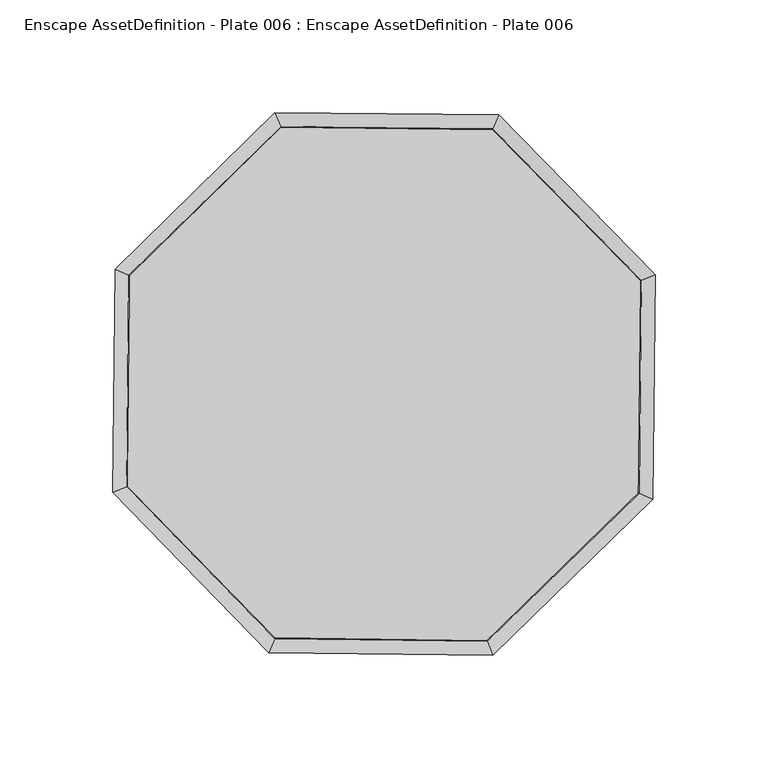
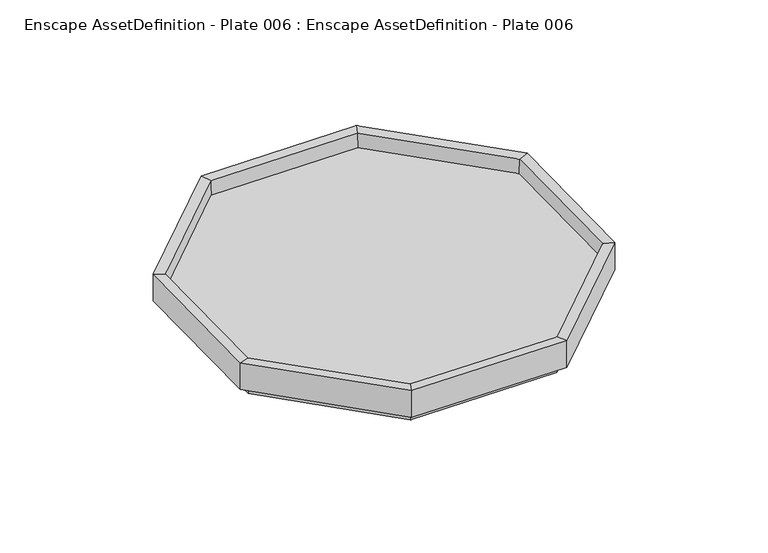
"""IFC4 building model written with IfcOpenShell, lengths in millimetres: geographic element geometry, Enscape AssetDefinition - Plate 006 : Enscape AssetDefinition - Plate 006."""

from ifc_helpers import new_model, si_unit, origin, place, context, project, spatial, triangles, source, transform, mapped, element, save


def enscape_assetdefinition_plate_006_enscape_assetdefinition_0bcb7aa0(model_context):
    return source(origin(), model_context, "Body", "Tessellation", [
        triangles([(-113.2349941, 48.2369993, 6.4420004), (-120.6630019, -48.2270027, 6.5360001), (-119.5479991, 50.9280006, 6.5360001), (-45.9609982, 114.1759978, 6.4420004), (-45.9129997, 114.0650034, 0.0), (48.2350009, 113.2320056, 6.4420004), (48.1909992, 113.1210022, 0.0), (113.0040035, -48.4660006, 0.0), (114.0650034, 45.9129997, 0.0), (120.5440048, 48.5210027, 6.5369999), (114.1739993, 45.9569968, 6.4420004), (113.111001, -48.5139992, 6.4420004), (45.6350006, -114.1770061, 0.0), (-113.1220014, 48.1909992, 0.0), (119.4220075, -51.2199977, 6.5369999), (45.6760001, -114.2889996, 6.4420004), (48.2259989, -120.6630019, 6.5369999), (119.4750021, -51.2420031, 24.9839992), (-48.4660006, -113.0040035, 0.0), (-114.1770061, -45.6350006, 0.0), (-48.5170013, -113.1149978, 6.4420004), (-114.290998, -45.6800015, 6.4420004), (48.2479998, -120.7149972, 24.9839992), (-51.2199977, -119.4229976, 6.5360001), (-51.2420031, -119.4750021, 24.9839992), (-120.7149972, -48.2479998, 24.9839992), (113.284001, -48.5870007, 24.6020003), (45.7479979, -114.4600011, 24.6020003), (-48.5870007, -113.284001, 24.6020003), (-113.4029981, 48.3100009, 24.6020003), (-114.4600011, -45.7479979, 24.6020003), (-114.0900019, -45.600001, 14.9890004), (-48.4300017, -112.9179986, 14.9890004), (45.600001, -114.0900019, 14.9890004), (112.9179986, -48.4300017, 14.9890004), (48.1540011, 113.0359965, 14.9890004), (113.9789985, 45.878, 14.9890004), (-46.0270007, 114.3479985, 24.6020003), (48.3100009, 113.4019989, 24.6020003), (114.3479985, 46.0270007, 24.6020003), (120.5969994, 48.5419998, 24.9839992), (50.9269969, 119.5479991, 6.5369999), (-48.5219974, 120.5440048, 6.5369999), (50.9499969, 119.5989952, 24.9839992), (-119.5999944, 50.9499969, 24.9839992), (-48.5419998, 120.5969994, 24.9839992), (-45.878, 113.9789985, 14.9890004), (-113.0359965, 48.1540011, 14.9890004)], [[47, 48, 32], [30, 48, 47], [45, 46, 43], [45, 38, 46], [45, 30, 38], [30, 47, 38], [38, 44, 46], [43, 44, 42], [43, 46, 44], [42, 44, 41], [40, 41, 44], [38, 39, 44], [40, 44, 39], [38, 36, 39], [38, 47, 36], [27, 40, 37], [39, 37, 40], [39, 36, 37], [37, 36, 47], [27, 37, 35], [47, 35, 37], [47, 34, 35], [47, 33, 34], [47, 32, 33], [31, 48, 30], [31, 32, 48], [31, 33, 32], [30, 26, 31], [30, 45, 26], [26, 29, 31], [29, 34, 33], [31, 29, 33], [28, 35, 34], [28, 27, 35], [29, 28, 34], [26, 25, 29], [25, 28, 29], [2, 25, 26], [1, 20, 22], [22, 24, 2], [2, 24, 25], [25, 23, 28], [23, 27, 28], [24, 23, 25], [18, 40, 27], [18, 41, 40], [23, 18, 27], [17, 18, 23], [24, 17, 23], [20, 21, 22], [22, 21, 24], [21, 17, 24], [20, 19, 21], [19, 16, 21], [21, 16, 17], [15, 41, 18], [16, 15, 17], [17, 15, 18], [15, 10, 41], [42, 41, 10], [12, 10, 15], [16, 12, 15], [19, 13, 16], [13, 12, 16], [19, 20, 14], [14, 13, 19], [1, 14, 20], [14, 8, 13], [13, 8, 12], [8, 11, 12], [12, 11, 10], [42, 10, 11], [14, 9, 8], [8, 9, 11], [14, 7, 9], [14, 5, 7], [1, 5, 14], [6, 7, 5], [6, 9, 7], [6, 11, 9], [42, 11, 6], [6, 43, 42], [6, 5, 4], [1, 4, 5], [6, 4, 43], [3, 26, 45], [3, 2, 26], [22, 3, 1], [22, 2, 3], [45, 43, 3], [3, 4, 1], [3, 43, 4]]),
    ])


if __name__ == "__main__":
    model = new_model("IFC4")
    model_context = context("Model", 3, world=origin())
    ifc_project = project(units=[si_unit("LENGTHUNIT", "METRE", prefix="MILLI")], contexts=[model_context])
    site = spatial("IfcSite", under=ifc_project)
    building = spatial("IfcBuilding", under=site)
    placement = place(None, origin())
    enscape_assetdefinition_plate_006_enscape_assetdefinition_shape = enscape_assetdefinition_plate_006_enscape_assetdefinition_0bcb7aa0(model_context)
    element("IfcGeographicElement", 1, ObjectType="Enscape AssetDefinition - Plate 006 : Enscape AssetDefinition - Plate 006", at=placement, inside=building, context=model_context, shape_type="MappedRepresentation", body=[
        mapped(enscape_assetdefinition_plate_006_enscape_assetdefinition_shape, transform((0.0, 0.0, 0.0), x_axis=(1.0, 0.0, 0.0), y_axis=(0.0, 1.0, 0.0), z_axis=(0.0, 0.0, 1.0))),
    ])
    save(model, "model.ifc")
